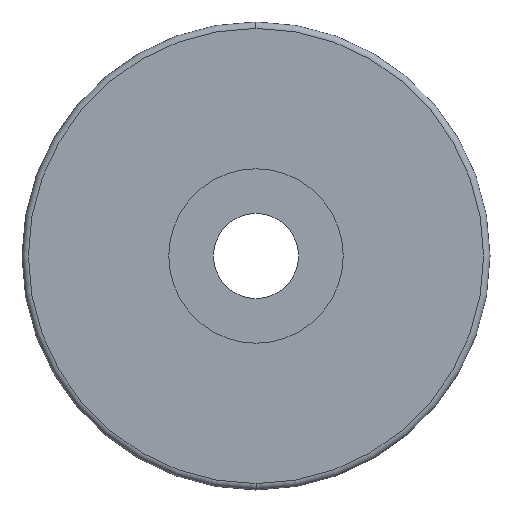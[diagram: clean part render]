
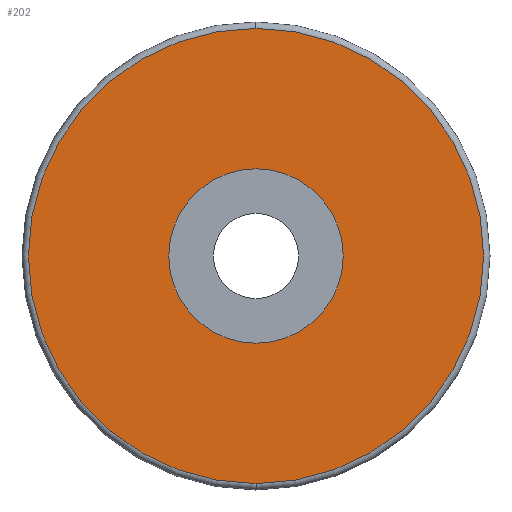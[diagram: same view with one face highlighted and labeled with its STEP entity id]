
A CAD part, left-side view. The second image highlights one B-rep face of the part: STEP entity #202.
In plain terms, the highlighted planar face has unit normal (-1, 0, 0).
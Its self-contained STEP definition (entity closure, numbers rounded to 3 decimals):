
#9 = DIRECTION ( 'NONE',  ( -1., 0., 0. ) ) ;
#21 = AXIS2_PLACEMENT_3D ( 'NONE', #537, #168, #492 ) ;
#25 = EDGE_CURVE ( 'NONE', #128, #380, #89, .T. ) ;
#37 = CARTESIAN_POINT ( 'NONE',  ( 0., 0., -10.7 ) ) ;
#47 = EDGE_LOOP ( 'NONE', ( #176, #314 ) ) ;
#52 = DIRECTION ( 'NONE',  ( 0., 0., 1. ) ) ;
#79 = CARTESIAN_POINT ( 'NONE',  ( 0., 0., 0. ) ) ;
#89 = CIRCLE ( 'NONE', #135, 10.7 ) ;
#108 = AXIS2_PLACEMENT_3D ( 'NONE', #79, #496, #412 ) ;
#110 = DIRECTION ( 'NONE',  ( 0., 0., -1. ) ) ;
#113 = PLANE ( 'NONE',  #435 ) ;
#128 = VERTEX_POINT ( 'NONE', #37 ) ;
#135 = AXIS2_PLACEMENT_3D ( 'NONE', #481, #485, #110 ) ;
#149 = ORIENTED_EDGE ( 'NONE', *, *, #422, .F. ) ;
#152 = DIRECTION ( 'NONE',  ( 0., 0., -1. ) ) ;
#156 = CARTESIAN_POINT ( 'NONE',  ( 0., 4.1, 0. ) ) ;
#168 = DIRECTION ( 'NONE',  ( -1., 0., 0. ) ) ;
#176 = ORIENTED_EDGE ( 'NONE', *, *, #25, .T. ) ;
#178 = CARTESIAN_POINT ( 'NONE',  ( 0., 0., 0. ) ) ;
#181 = ORIENTED_EDGE ( 'NONE', *, *, #316, .F. ) ;
#198 = CARTESIAN_POINT ( 'NONE',  ( 0., 0., 4.1 ) ) ;
#202 = ADVANCED_FACE ( 'NONE', ( #520, #228 ), #113, .F. ) ;
#222 = VERTEX_POINT ( 'NONE', #198 ) ;
#228 = FACE_BOUND ( 'NONE', #385, .T. ) ;
#232 = CIRCLE ( 'NONE', #108, 4.1 ) ;
#302 = CARTESIAN_POINT ( 'NONE',  ( 0., 0., -4.1 ) ) ;
#304 = CIRCLE ( 'NONE', #436, 4.1 ) ;
#313 = CIRCLE ( 'NONE', #21, 10.7 ) ;
#314 = ORIENTED_EDGE ( 'NONE', *, *, #375, .T. ) ;
#316 = EDGE_CURVE ( 'NONE', #497, #222, #232, .T. ) ;
#336 = CARTESIAN_POINT ( 'NONE',  ( 0., 0., 10.7 ) ) ;
#375 = EDGE_CURVE ( 'NONE', #380, #128, #313, .T. ) ;
#380 = VERTEX_POINT ( 'NONE', #336 ) ;
#385 = EDGE_LOOP ( 'NONE', ( #149, #181 ) ) ;
#412 = DIRECTION ( 'NONE',  ( 0., 0., 1. ) ) ;
#422 = EDGE_CURVE ( 'NONE', #222, #497, #304, .T. ) ;
#435 = AXIS2_PLACEMENT_3D ( 'NONE', #156, #525, #152 ) ;
#436 = AXIS2_PLACEMENT_3D ( 'NONE', #178, #9, #52 ) ;
#481 = CARTESIAN_POINT ( 'NONE',  ( 0., 0., 0. ) ) ;
#485 = DIRECTION ( 'NONE',  ( -1., 0., 0. ) ) ;
#492 = DIRECTION ( 'NONE',  ( 0., 0., -1. ) ) ;
#496 = DIRECTION ( 'NONE',  ( -1., 0., 0. ) ) ;
#497 = VERTEX_POINT ( 'NONE', #302 ) ;
#520 = FACE_OUTER_BOUND ( 'NONE', #47, .T. ) ;
#525 = DIRECTION ( 'NONE',  ( 1., 0., 0. ) ) ;
#537 = CARTESIAN_POINT ( 'NONE',  ( 0., 0., 0. ) ) ;
